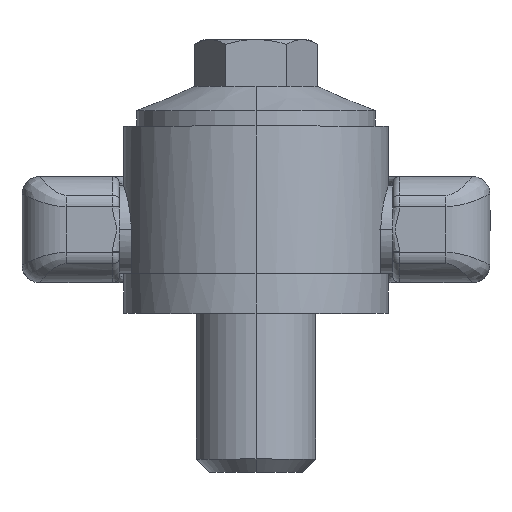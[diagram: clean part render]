
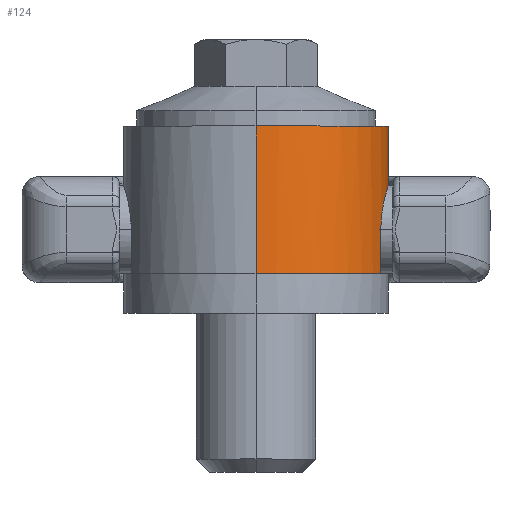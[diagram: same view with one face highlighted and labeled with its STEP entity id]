
A CAD part, top view. The second image highlights one B-rep face of the part: STEP entity #124.
In plain terms, the highlighted cylindrical face has radius 30 mm (diameter 60 mm), a partial arc.
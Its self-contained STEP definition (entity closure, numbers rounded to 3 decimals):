
#18 = VERTEX_POINT ( 'NONE', #1950 ) ;
#23 = EDGE_CURVE ( 'NONE', #25, #18, #1947, .T. ) ;
#25 = VERTEX_POINT ( 'NONE', #1969 ) ;
#27 = ORIENTED_EDGE ( 'NONE', *, *, #23, .T. ) ;
#71 = EDGE_CURVE ( 'NONE', #74, #25, #2005, .T. ) ;
#73 = ORIENTED_EDGE ( 'NONE', *, *, #71, .T. ) ;
#74 = VERTEX_POINT ( 'NONE', #2006 ) ;
#77 = EDGE_CURVE ( 'NONE', #82, #74, #2114, .T. ) ;
#78 = ORIENTED_EDGE ( 'NONE', *, *, #77, .T. ) ;
#81 = VERTEX_POINT ( 'NONE', #2110 ) ;
#82 = VERTEX_POINT ( 'NONE', #2109 ) ;
#83 = ORIENTED_EDGE ( 'NONE', *, *, #84, .T. ) ;
#84 = EDGE_CURVE ( 'NONE', #102, #81, #2108, .T. ) ;
#86 = EDGE_CURVE ( 'NONE', #82, #81, #2103, .T. ) ;
#87 = VERTEX_POINT ( 'NONE', #2097 ) ;
#88 = ORIENTED_EDGE ( 'NONE', *, *, #86, .F. ) ;
#89 = ORIENTED_EDGE ( 'NONE', *, *, #91, .F. ) ;
#91 = EDGE_CURVE ( 'NONE', #102, #87, #2096, .T. ) ;
#102 = VERTEX_POINT ( 'NONE', #2134 ) ;
#117 = EDGE_LOOP ( 'NONE', ( #89, #83, #88, #78, #73, #27, #918, #911 ) ) ;
#124 = ADVANCED_FACE ( 'NONE', ( #2170 ), #2169, .T. ) ;
#911 = ORIENTED_EDGE ( 'NONE', *, *, #913, .F. ) ;
#913 = EDGE_CURVE ( 'NONE', #87, #916, #3417, .T. ) ;
#915 = EDGE_CURVE ( 'NONE', #916, #18, #3413, .T. ) ;
#916 = VERTEX_POINT ( 'NONE', #3408 ) ;
#918 = ORIENTED_EDGE ( 'NONE', *, *, #915, .F. ) ;
#1947 = LINE ( 'NONE', #1972, #1971 ) ;
#1950 = CARTESIAN_POINT ( 'NONE',  ( 28.284, 9., -10. ) ) ;
#1969 = CARTESIAN_POINT ( 'NONE',  ( 28.284, 19., -10. ) ) ;
#1970 = DIRECTION ( 'NONE',  ( 0., -1., 0. ) ) ;
#1971 = VECTOR ( 'NONE', #1970, 1000. ) ;
#1972 = CARTESIAN_POINT ( 'NONE',  ( 28.284, 62., -10. ) ) ;
#2005 = B_SPLINE_CURVE_WITH_KNOTS ( 'NONE', 3,
 ( #2080, #2079, #2078, #2077, #2076, #2075, #2074, #2073, #2072, #2071, #2070, #2069, #2068, #2067, #2066, #2065, #2064, #2063, #2062, #2061, #2060, #2059, #2058, #2057, #2056, #2055, #2054, #2053, #2052, #2051, #2050, #2049, #2048, #2047, #2046, #2045, #2044, #2043, #2042, #2041, #2040, #2039, #2038, #2037, #2036, #2035 ),
 .UNSPECIFIED., .F., .F.,
 ( 4, 2, 2, 2, 2, 2, 2, 2, 2, 2, 2, 2, 2, 2, 2, 2, 2, 2, 2, 2, 2, 2, 4 ),
 ( 0., 0.002, 0.003, 0.004, 0.006, 0.007, 0.008, 0.01, 0.012, 0.013, 0.014, 0.016, 0.018, 0.02, 0.021, 0.022, 0.023, 0.024, 0.026, 0.028, 0.03, 0.03, 0.031 ),
 .UNSPECIFIED. ) ;
#2006 = CARTESIAN_POINT ( 'NONE',  ( 28.284, 19., 10. ) ) ;
#2035 = CARTESIAN_POINT ( 'NONE',  ( 28.284, 19., -10. ) ) ;
#2036 = CARTESIAN_POINT ( 'NONE',  ( 28.284, 19.333, -10. ) ) ;
#2037 = CARTESIAN_POINT ( 'NONE',  ( 28.29, 19.664, -9.983 ) ) ;
#2038 = CARTESIAN_POINT ( 'NONE',  ( 28.313, 20.324, -9.917 ) ) ;
#2039 = CARTESIAN_POINT ( 'NONE',  ( 28.331, 20.654, -9.868 ) ) ;
#2040 = CARTESIAN_POINT ( 'NONE',  ( 28.398, 21.624, -9.672 ) ) ;
#2041 = CARTESIAN_POINT ( 'NONE',  ( 28.464, 22.247, -9.48 ) ) ;
#2042 = CARTESIAN_POINT ( 'NONE',  ( 28.626, 23.45, -8.979 ) ) ;
#2043 = CARTESIAN_POINT ( 'NONE',  ( 28.724, 24.034, -8.665 ) ) ;
#2044 = CARTESIAN_POINT ( 'NONE',  ( 28.933, 25.113, -7.94 ) ) ;
#2045 = CARTESIAN_POINT ( 'NONE',  ( 29.044, 25.613, -7.53 ) ) ;
#2046 = CARTESIAN_POINT ( 'NONE',  ( 29.211, 26.303, -6.839 ) ) ;
#2047 = CARTESIAN_POINT ( 'NONE',  ( 29.267, 26.524, -6.595 ) ) ;
#2048 = CARTESIAN_POINT ( 'NONE',  ( 29.376, 26.937, -6.091 ) ) ;
#2049 = CARTESIAN_POINT ( 'NONE',  ( 29.429, 27.131, -5.83 ) ) ;
#2050 = CARTESIAN_POINT ( 'NONE',  ( 29.531, 27.492, -5.291 ) ) ;
#2051 = CARTESIAN_POINT ( 'NONE',  ( 29.58, 27.659, -5.013 ) ) ;
#2052 = CARTESIAN_POINT ( 'NONE',  ( 29.671, 27.967, -4.438 ) ) ;
#2053 = CARTESIAN_POINT ( 'NONE',  ( 29.715, 28.109, -4.14 ) ) ;
#2054 = CARTESIAN_POINT ( 'NONE',  ( 29.832, 28.488, -3.227 ) ) ;
#2055 = CARTESIAN_POINT ( 'NONE',  ( 29.894, 28.678, -2.601 ) ) ;
#2056 = CARTESIAN_POINT ( 'NONE',  ( 29.978, 28.935, -1.315 ) ) ;
#2057 = CARTESIAN_POINT ( 'NONE',  ( 30., 29.001, -0.647 ) ) ;
#2058 = CARTESIAN_POINT ( 'NONE',  ( 30., 28.999, 0.668 ) ) ;
#2059 = CARTESIAN_POINT ( 'NONE',  ( 29.978, 28.934, 1.32 ) ) ;
#2060 = CARTESIAN_POINT ( 'NONE',  ( 29.914, 28.74, 2.29 ) ) ;
#2061 = CARTESIAN_POINT ( 'NONE',  ( 29.888, 28.658, 2.613 ) ) ;
#2062 = CARTESIAN_POINT ( 'NONE',  ( 29.826, 28.466, 3.241 ) ) ;
#2063 = CARTESIAN_POINT ( 'NONE',  ( 29.791, 28.355, 3.548 ) ) ;
#2064 = CARTESIAN_POINT ( 'NONE',  ( 29.674, 27.979, 4.449 ) ) ;
#2065 = CARTESIAN_POINT ( 'NONE',  ( 29.582, 27.672, 5.023 ) ) ;
#2066 = CARTESIAN_POINT ( 'NONE',  ( 29.376, 26.94, 6.114 ) ) ;
#2067 = CARTESIAN_POINT ( 'NONE',  ( 29.266, 26.528, 6.614 ) ) ;
#2068 = CARTESIAN_POINT ( 'NONE',  ( 29.099, 25.841, 7.301 ) ) ;
#2069 = CARTESIAN_POINT ( 'NONE',  ( 29.043, 25.601, 7.519 ) ) ;
#2070 = CARTESIAN_POINT ( 'NONE',  ( 28.933, 25.097, 7.933 ) ) ;
#2071 = CARTESIAN_POINT ( 'NONE',  ( 28.878, 24.833, 8.129 ) ) ;
#2072 = CARTESIAN_POINT ( 'NONE',  ( 28.722, 24.021, 8.673 ) ) ;
#2073 = CARTESIAN_POINT ( 'NONE',  ( 28.626, 23.449, 8.98 ) ) ;
#2074 = CARTESIAN_POINT ( 'NONE',  ( 28.504, 22.543, 9.357 ) ) ;
#2075 = CARTESIAN_POINT ( 'NONE',  ( 28.466, 22.231, 9.469 ) ) ;
#2076 = CARTESIAN_POINT ( 'NONE',  ( 28.402, 21.6, 9.662 ) ) ;
#2077 = CARTESIAN_POINT ( 'NONE',  ( 28.374, 21.282, 9.742 ) ) ;
#2078 = CARTESIAN_POINT ( 'NONE',  ( 28.308, 20.319, 9.934 ) ) ;
#2079 = CARTESIAN_POINT ( 'NONE',  ( 28.284, 19.666, 10. ) ) ;
#2080 = CARTESIAN_POINT ( 'NONE',  ( 28.284, 19., 10. ) ) ;
#2092 = DIRECTION ( 'NONE',  ( 0., 0., 1. ) ) ;
#2093 = DIRECTION ( 'NONE',  ( 0., 1., 0. ) ) ;
#2094 = CARTESIAN_POINT ( 'NONE',  ( 0., 42.4, 0. ) ) ;
#2095 = AXIS2_PLACEMENT_3D ( 'NONE', #2094, #2093, #2092 ) ;
#2096 = CIRCLE ( 'NONE', #2095, 30. ) ;
#2097 = CARTESIAN_POINT ( 'NONE',  ( 0., 42.4, -30. ) ) ;
#2098 = DIRECTION ( 'NONE',  ( 0., 0., -1. ) ) ;
#2100 = DIRECTION ( 'NONE',  ( 0., -1., 0. ) ) ;
#2101 = CARTESIAN_POINT ( 'NONE',  ( 0., 9., 0. ) ) ;
#2102 = AXIS2_PLACEMENT_3D ( 'NONE', #2101, #2100, #2098 ) ;
#2103 = CIRCLE ( 'NONE', #2102, 30. ) ;
#2105 = DIRECTION ( 'NONE',  ( 0., -1., 0. ) ) ;
#2106 = VECTOR ( 'NONE', #2105, 1000. ) ;
#2107 = CARTESIAN_POINT ( 'NONE',  ( 0., 62., 30. ) ) ;
#2108 = LINE ( 'NONE', #2107, #2106 ) ;
#2109 = CARTESIAN_POINT ( 'NONE',  ( 28.284, 9., 10. ) ) ;
#2110 = CARTESIAN_POINT ( 'NONE',  ( 0., 9., 30. ) ) ;
#2111 = DIRECTION ( 'NONE',  ( 0., 1., 0. ) ) ;
#2112 = VECTOR ( 'NONE', #2111, 1000. ) ;
#2113 = CARTESIAN_POINT ( 'NONE',  ( 28.284, 62., 10. ) ) ;
#2114 = LINE ( 'NONE', #2113, #2112 ) ;
#2134 = CARTESIAN_POINT ( 'NONE',  ( 0., 42.4, 30. ) ) ;
#2165 = DIRECTION ( 'NONE',  ( 0., 0., -1. ) ) ;
#2166 = DIRECTION ( 'NONE',  ( 0., -1., 0. ) ) ;
#2167 = CARTESIAN_POINT ( 'NONE',  ( 0., 62., 0. ) ) ;
#2168 = AXIS2_PLACEMENT_3D ( 'NONE', #2167, #2166, #2165 ) ;
#2169 = CYLINDRICAL_SURFACE ( 'NONE', #2168, 30. ) ;
#2170 = FACE_OUTER_BOUND ( 'NONE', #117, .T. ) ;
#3408 = CARTESIAN_POINT ( 'NONE',  ( 0., 9., -30. ) ) ;
#3409 = DIRECTION ( 'NONE',  ( 0., 0., -1. ) ) ;
#3410 = DIRECTION ( 'NONE',  ( 0., -1., 0. ) ) ;
#3411 = CARTESIAN_POINT ( 'NONE',  ( 0., 9., 0. ) ) ;
#3412 = AXIS2_PLACEMENT_3D ( 'NONE', #3411, #3410, #3409 ) ;
#3413 = CIRCLE ( 'NONE', #3412, 30. ) ;
#3414 = DIRECTION ( 'NONE',  ( 0., -1., 0. ) ) ;
#3415 = VECTOR ( 'NONE', #3414, 1000. ) ;
#3416 = CARTESIAN_POINT ( 'NONE',  ( 0., 62., -30. ) ) ;
#3417 = LINE ( 'NONE', #3416, #3415 ) ;
